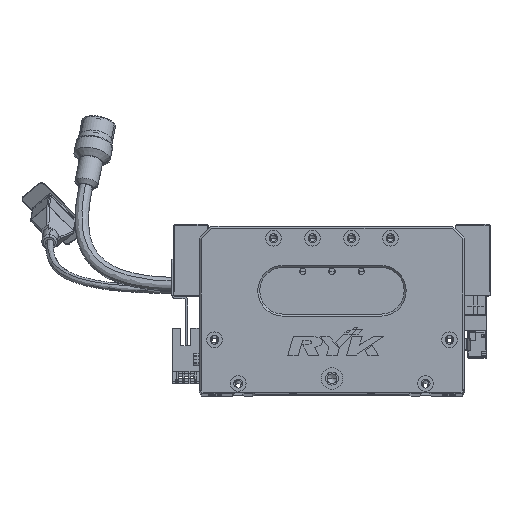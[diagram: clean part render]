
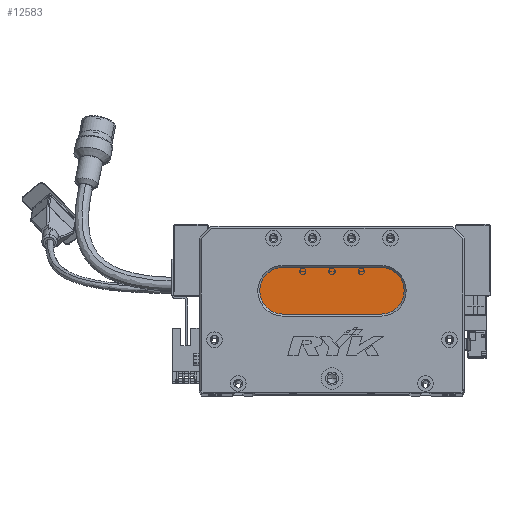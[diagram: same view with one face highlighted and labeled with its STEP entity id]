
A CAD part, top view. The second image highlights one B-rep face of the part: STEP entity #12583.
In plain terms, the highlighted planar face has unit normal (0, 0, 1) as drawn and (0, 0, -1) by its records, which use the part's own axes.
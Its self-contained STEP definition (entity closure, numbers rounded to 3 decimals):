
#6648 = AXIS2_PLACEMENT_3D ( 'NONE', #56559, #44495, #6860 ) ;
#6860 = DIRECTION ( 'NONE',  ( -1., 0., 0. ) ) ;
#8059 = CARTESIAN_POINT ( 'NONE',  ( 93., 64., 13. ) ) ;
#10602 = EDGE_CURVE ( 'NONE', #66737, #60470, #79484, .T. ) ;
#11804 = EDGE_CURVE ( 'NONE', #44553, #32778, #70570, .T. ) ;
#11819 = ORIENTED_EDGE ( 'NONE', *, *, #45944, .T. ) ;
#12116 = ORIENTED_EDGE ( 'NONE', *, *, #37892, .T. ) ;
#12243 = ORIENTED_EDGE ( 'NONE', *, *, #10602, .T. ) ;
#12583 = ADVANCED_FACE ( 'NONE', ( #50792 ), #37904, .T. ) ;
#16461 = DIRECTION ( 'NONE',  ( 1., 0., 0. ) ) ;
#17325 = CARTESIAN_POINT ( 'NONE',  ( 93., 40., 13. ) ) ;
#19228 = VECTOR ( 'NONE', #35763, 1000. ) ;
#20988 = EDGE_CURVE ( 'NONE', #32778, #66737, #69317, .T. ) ;
#21024 = CARTESIAN_POINT ( 'NONE',  ( 93., 40., 13. ) ) ;
#25448 = AXIS2_PLACEMENT_3D ( 'NONE', #37879, #75766, #58437 ) ;
#29540 = CARTESIAN_POINT ( 'NONE',  ( 31., 52., 13. ) ) ;
#32778 = VERTEX_POINT ( 'NONE', #21024 ) ;
#32936 = AXIS2_PLACEMENT_3D ( 'NONE', #76000, #44142, #63066 ) ;
#35763 = DIRECTION ( 'NONE',  ( -1., 0., 0. ) ) ;
#37879 = CARTESIAN_POINT ( 'NONE',  ( 43., 52., 13. ) ) ;
#37892 = EDGE_CURVE ( 'NONE', #72578, #44553, #74906, .T. ) ;
#37904 = PLANE ( 'NONE',  #6648 ) ;
#40216 = CARTESIAN_POINT ( 'NONE',  ( 43., 64., 13. ) ) ;
#44142 = DIRECTION ( 'NONE',  ( 0., 0., -1. ) ) ;
#44495 = DIRECTION ( 'NONE',  ( 0., 0., -1. ) ) ;
#44553 = VERTEX_POINT ( 'NONE', #8059 ) ;
#45944 = EDGE_CURVE ( 'NONE', #60470, #72578, #63345, .T. ) ;
#47321 = CARTESIAN_POINT ( 'NONE',  ( 93., 52., 13. ) ) ;
#50792 = FACE_OUTER_BOUND ( 'NONE', #77509, .T. ) ;
#53916 = DIRECTION ( 'NONE',  ( -1., 0., 0. ) ) ;
#56559 = CARTESIAN_POINT ( 'NONE',  ( 93., 52., 13. ) ) ;
#58437 = DIRECTION ( 'NONE',  ( -1., 0., 0. ) ) ;
#59300 = ORIENTED_EDGE ( 'NONE', *, *, #11804, .T. ) ;
#60470 = VERTEX_POINT ( 'NONE', #29540 ) ;
#62170 = ORIENTED_EDGE ( 'NONE', *, *, #20988, .T. ) ;
#62909 = AXIS2_PLACEMENT_3D ( 'NONE', #47321, #79210, #53916 ) ;
#63066 = DIRECTION ( 'NONE',  ( -1., 0., 0. ) ) ;
#63345 = CIRCLE ( 'NONE', #25448, 12. ) ;
#66060 = VECTOR ( 'NONE', #16461, 1000. ) ;
#66737 = VERTEX_POINT ( 'NONE', #66816 ) ;
#66816 = CARTESIAN_POINT ( 'NONE',  ( 43., 40., 13. ) ) ;
#69317 = LINE ( 'NONE', #17325, #19228 ) ;
#70570 = CIRCLE ( 'NONE', #62909, 12. ) ;
#72578 = VERTEX_POINT ( 'NONE', #40216 ) ;
#73000 = CARTESIAN_POINT ( 'NONE',  ( 93., 64., 13. ) ) ;
#74906 = LINE ( 'NONE', #73000, #66060 ) ;
#75766 = DIRECTION ( 'NONE',  ( 0., 0., -1. ) ) ;
#76000 = CARTESIAN_POINT ( 'NONE',  ( 43., 52., 13. ) ) ;
#77509 = EDGE_LOOP ( 'NONE', ( #59300, #62170, #12243, #11819, #12116 ) ) ;
#79210 = DIRECTION ( 'NONE',  ( 0., 0., -1. ) ) ;
#79484 = CIRCLE ( 'NONE', #32936, 12. ) ;
